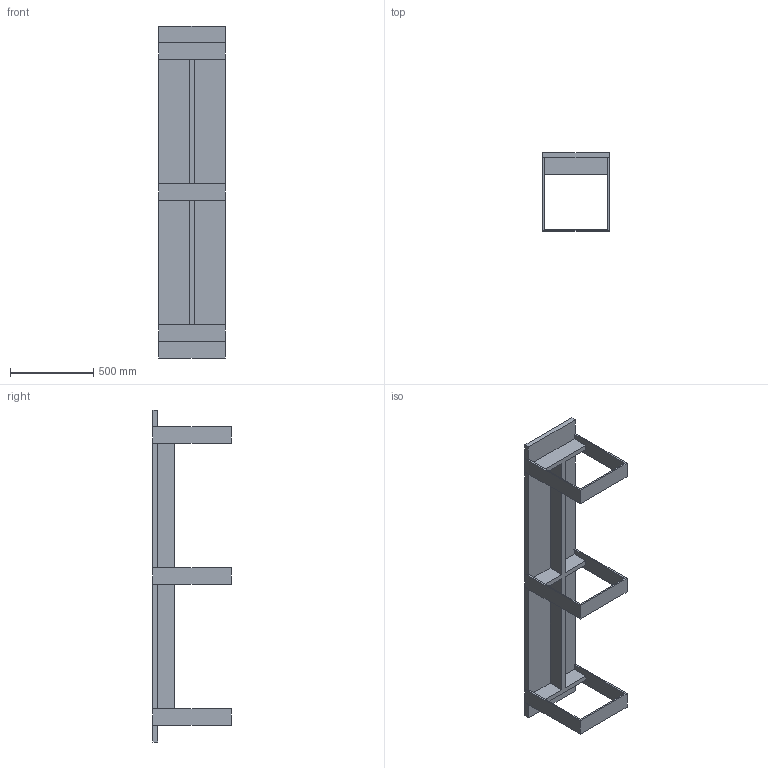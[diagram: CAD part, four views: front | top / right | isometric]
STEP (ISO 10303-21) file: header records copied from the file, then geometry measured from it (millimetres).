
FILE_DESCRIPTION (( 'STEP AP203' ), '1' );
FILE_NAME ('Haag bench 2400x400.STEP', '2019-04-02T14:24:21', ( '' ), ( '' ), 'SwSTEP 2.0', 'SolidWorks 2019', '' );
FILE_SCHEMA (( 'CONFIG_CONTROL_DESIGN' ));
Length unit declared in the file: millimetre
Products named in the file (1): Haag bench 2400x400
Bounding box: 400 x 470 x 2000 mm (x, y, z)
Volume: 36120000 mm3; surface area: 3603200 mm2
Topology: 5 solids, 5 shells, 82 faces, 216 edges, 144 vertices
Faces by surface type: plane 82
Entity records: 2561 total; most frequent: CARTESIAN_POINT 443, ORIENTED_EDGE 432, DIRECTION 382, EDGE_CURVE 216, LINE 216, VECTOR 216, VERTEX_POINT 144, EDGE_LOOP 88
